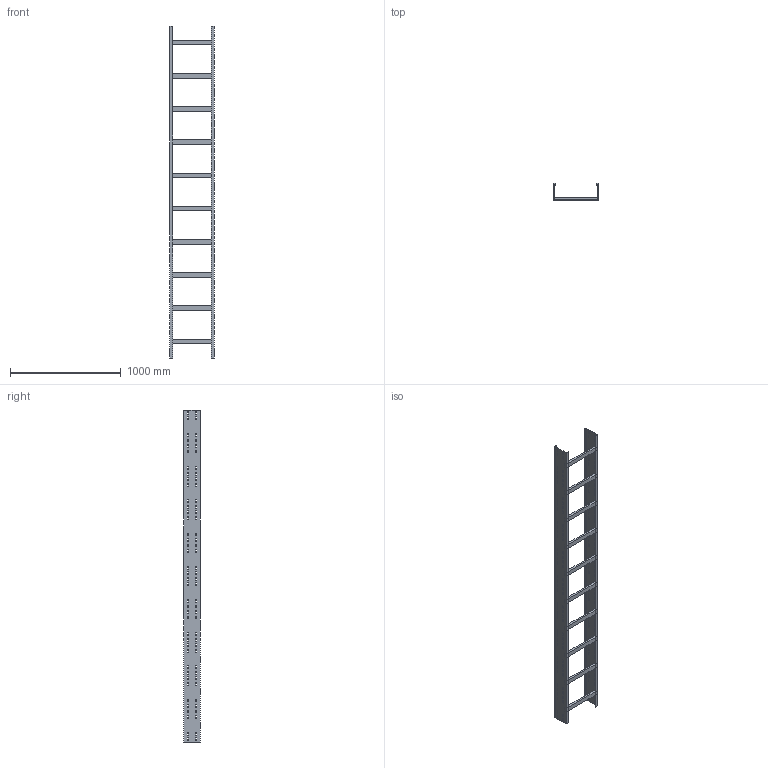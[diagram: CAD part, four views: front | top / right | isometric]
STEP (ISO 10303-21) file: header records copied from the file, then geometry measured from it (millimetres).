
FILE_DESCRIPTION (( 'STEP AP214' ), '1' );
FILE_NAME ('01J3F400.step', '2025-02-21T16:29:15', ( '' ), ( '' ), 'SwSTEP 2.0', 'SolidWorks 2023', '' );
FILE_SCHEMA (( 'AUTOMOTIVE_DESIGN' ));
Length unit declared in the file: millimetre
Products named in the file (3): 01J3F400; LONGH.H150; TRAVERSINO_400
Assembly tree (12 placements, depth 2):
  01J3F400
    LONGH.H150  x2
    TRAVERSINO_400  x10
Bounding box: 400 x 150 x 3000 mm (x, y, z)
Volume: 6387600 mm3; surface area: 2763288 mm2
Topology: 12 solids, 12 shells, 720 faces, 2088 edges, 1392 vertices
Faces by surface type: plane 720
Entity records: 11488 total; most frequent: CARTESIAN_POINT 2011, ORIENTED_EDGE 1992, DIRECTION 1698, VECTOR 996, LINE 996, EDGE_CURVE 996, VERTEX_POINT 664, EDGE_LOOP 496
